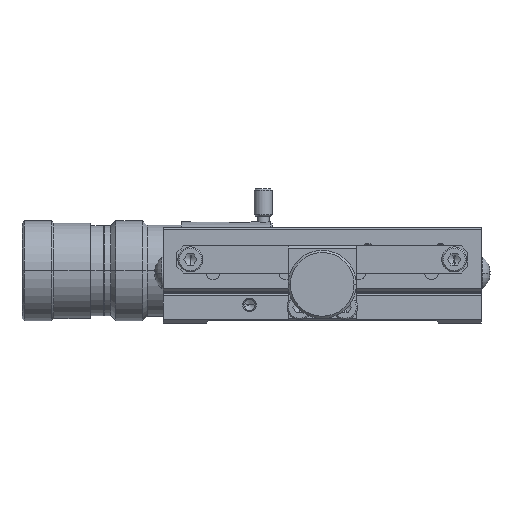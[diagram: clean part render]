
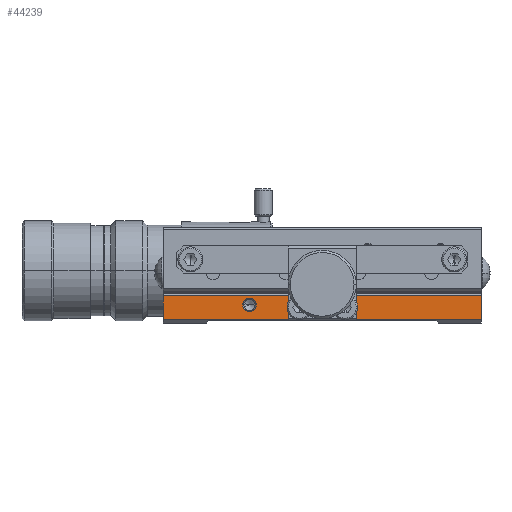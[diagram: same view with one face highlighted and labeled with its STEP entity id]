
A CAD part, left-side view. The second image highlights one B-rep face of the part: STEP entity #44239.
In plain terms, the highlighted planar face has unit normal (-1, 0, 0).
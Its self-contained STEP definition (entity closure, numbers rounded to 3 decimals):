
#29413 = CARTESIAN_POINT ( 'NONE',  ( -35., 14.5, 4. ) ) ;
#29414 = DIRECTION ( 'NONE',  ( 0., -1., 0. ) ) ;
#29415 = DIRECTION ( 'NONE',  ( -1., 0., 0. ) ) ;
#29416 = CARTESIAN_POINT ( 'NONE',  ( -35., 16., 4. ) ) ;
#29417 = AXIS2_PLACEMENT_3D ( 'NONE', #29416, #29415, #29414 ) ;
#29418 = CIRCLE ( 'NONE', #29417, 1.5 ) ;
#29419 = CARTESIAN_POINT ( 'NONE',  ( -35., 17.5, 4. ) ) ;
#32214 = CARTESIAN_POINT ( 'NONE',  ( -35., 35., 0.8 ) ) ;
#32215 = DIRECTION ( 'NONE',  ( 0., 1., 0. ) ) ;
#32216 = VECTOR ( 'NONE', #32215, 1000. ) ;
#32217 = CARTESIAN_POINT ( 'NONE',  ( -35., -35., 0.8 ) ) ;
#32218 = LINE ( 'NONE', #32217, #32216 ) ;
#32219 = CARTESIAN_POINT ( 'NONE',  ( -35., 7.5, 0.8 ) ) ;
#32292 = CARTESIAN_POINT ( 'NONE',  ( -35., 35., 6. ) ) ;
#32293 = DIRECTION ( 'NONE',  ( 0., 1., 0. ) ) ;
#32294 = VECTOR ( 'NONE', #32293, 1000. ) ;
#32295 = CARTESIAN_POINT ( 'NONE',  ( -35., -35., 6. ) ) ;
#32296 = LINE ( 'NONE', #32295, #32294 ) ;
#32297 = CARTESIAN_POINT ( 'NONE',  ( -35., -35., 6. ) ) ;
#32298 = DIRECTION ( 'NONE',  ( 0., 0., 1. ) ) ;
#32299 = VECTOR ( 'NONE', #32298, 1000. ) ;
#32300 = CARTESIAN_POINT ( 'NONE',  ( -35., -35., 0.8 ) ) ;
#32301 = LINE ( 'NONE', #32300, #32299 ) ;
#32302 = DIRECTION ( 'NONE',  ( 0., 0., 1. ) ) ;
#32303 = VECTOR ( 'NONE', #32302, 1000. ) ;
#32304 = CARTESIAN_POINT ( 'NONE',  ( -35., -7.5, 0.8 ) ) ;
#32305 = LINE ( 'NONE', #32304, #32303 ) ;
#32306 = CARTESIAN_POINT ( 'NONE',  ( -35., -7.5, 5.5 ) ) ;
#32307 = DIRECTION ( 'NONE',  ( 0., 1., 0. ) ) ;
#32308 = VECTOR ( 'NONE', #32307, 1000. ) ;
#32309 = CARTESIAN_POINT ( 'NONE',  ( -35., -35., 5.5 ) ) ;
#32310 = LINE ( 'NONE', #32309, #32308 ) ;
#32311 = DIRECTION ( 'NONE',  ( 0., 1., 0. ) ) ;
#32312 = VECTOR ( 'NONE', #32311, 1000. ) ;
#32313 = CARTESIAN_POINT ( 'NONE',  ( -35., -35., 0.8 ) ) ;
#32314 = LINE ( 'NONE', #32313, #32312 ) ;
#32326 = CARTESIAN_POINT ( 'NONE',  ( -35., -7.5, 0.8 ) ) ;
#32350 = DIRECTION ( 'NONE',  ( 0., 0., 1. ) ) ;
#32351 = VECTOR ( 'NONE', #32350, 1000. ) ;
#32352 = CARTESIAN_POINT ( 'NONE',  ( -35., 35., 0.8 ) ) ;
#32353 = LINE ( 'NONE', #32352, #32351 ) ;
#32362 = CARTESIAN_POINT ( 'NONE',  ( -35., 7.5, 5.5 ) ) ;
#32363 = DIRECTION ( 'NONE',  ( 0., 0., 1. ) ) ;
#32364 = VECTOR ( 'NONE', #32363, 1000. ) ;
#32365 = CARTESIAN_POINT ( 'NONE',  ( -35., 7.5, 0.8 ) ) ;
#32366 = LINE ( 'NONE', #32365, #32364 ) ;
#32375 = DIRECTION ( 'NONE',  ( 0., -1., 0. ) ) ;
#32376 = DIRECTION ( 'NONE',  ( -1., 0., 0. ) ) ;
#32377 = AXIS2_PLACEMENT_3D ( 'NONE', #32383, #32376, #32375 ) ;
#32378 = CIRCLE ( 'NONE', #32377, 1.5 ) ;
#32379 = DIRECTION ( 'NONE',  ( 0., 1., 0. ) ) ;
#32381 = DIRECTION ( 'NONE',  ( -1., 0., 0. ) ) ;
#32382 = AXIS2_PLACEMENT_3D ( 'NONE', #32384, #32381, #32379 ) ;
#32383 = CARTESIAN_POINT ( 'NONE',  ( -35., 16., 4. ) ) ;
#32384 = CARTESIAN_POINT ( 'NONE',  ( -35., -35., 0.8 ) ) ;
#32385 = PLANE ( 'NONE',  #32382 ) ;
#32386 = FACE_OUTER_BOUND ( 'NONE', #44244, .T. ) ;
#32387 = FACE_BOUND ( 'NONE', #44240, .T. ) ;
#32477 = CARTESIAN_POINT ( 'NONE',  ( -35., -35., 0.8 ) ) ;
#42572 = VERTEX_POINT ( 'NONE', #29419 ) ;
#42574 = EDGE_CURVE ( 'NONE', #42572, #42575, #29418, .T. ) ;
#42575 = VERTEX_POINT ( 'NONE', #29413 ) ;
#44160 = ORIENTED_EDGE ( 'NONE', *, *, #44207, .F. ) ;
#44161 = VERTEX_POINT ( 'NONE', #32219 ) ;
#44163 = EDGE_CURVE ( 'NONE', #44161, #44164, #32218, .T. ) ;
#44164 = VERTEX_POINT ( 'NONE', #32214 ) ;
#44206 = EDGE_CURVE ( 'NONE', #44294, #44236, #32314, .T. ) ;
#44207 = EDGE_CURVE ( 'NONE', #44209, #44249, #32310, .T. ) ;
#44209 = VERTEX_POINT ( 'NONE', #32306 ) ;
#44210 = ORIENTED_EDGE ( 'NONE', *, *, #44211, .F. ) ;
#44211 = EDGE_CURVE ( 'NONE', #44236, #44209, #32305, .T. ) ;
#44212 = ORIENTED_EDGE ( 'NONE', *, *, #44206, .F. ) ;
#44213 = ORIENTED_EDGE ( 'NONE', *, *, #44214, .T. ) ;
#44214 = EDGE_CURVE ( 'NONE', #44294, #44215, #32301, .T. ) ;
#44215 = VERTEX_POINT ( 'NONE', #32297 ) ;
#44216 = ORIENTED_EDGE ( 'NONE', *, *, #44217, .T. ) ;
#44217 = EDGE_CURVE ( 'NONE', #44215, #44218, #32296, .T. ) ;
#44218 = VERTEX_POINT ( 'NONE', #32292 ) ;
#44219 = ORIENTED_EDGE ( 'NONE', *, *, #44220, .F. ) ;
#44220 = EDGE_CURVE ( 'NONE', #44164, #44218, #32353, .T. ) ;
#44236 = VERTEX_POINT ( 'NONE', #32326 ) ;
#44239 = ADVANCED_FACE ( 'NONE', ( #32387, #32386 ), #32385, .T. ) ;
#44240 = EDGE_LOOP ( 'NONE', ( #44241, #44243 ) ) ;
#44241 = ORIENTED_EDGE ( 'NONE', *, *, #44242, .F. ) ;
#44242 = EDGE_CURVE ( 'NONE', #42575, #42572, #32378, .T. ) ;
#44243 = ORIENTED_EDGE ( 'NONE', *, *, #42574, .F. ) ;
#44244 = EDGE_LOOP ( 'NONE', ( #44246, #44247, #44160, #44210, #44212, #44213, #44216, #44219 ) ) ;
#44246 = ORIENTED_EDGE ( 'NONE', *, *, #44163, .F. ) ;
#44247 = ORIENTED_EDGE ( 'NONE', *, *, #44248, .T. ) ;
#44248 = EDGE_CURVE ( 'NONE', #44161, #44249, #32366, .T. ) ;
#44249 = VERTEX_POINT ( 'NONE', #32362 ) ;
#44294 = VERTEX_POINT ( 'NONE', #32477 ) ;
